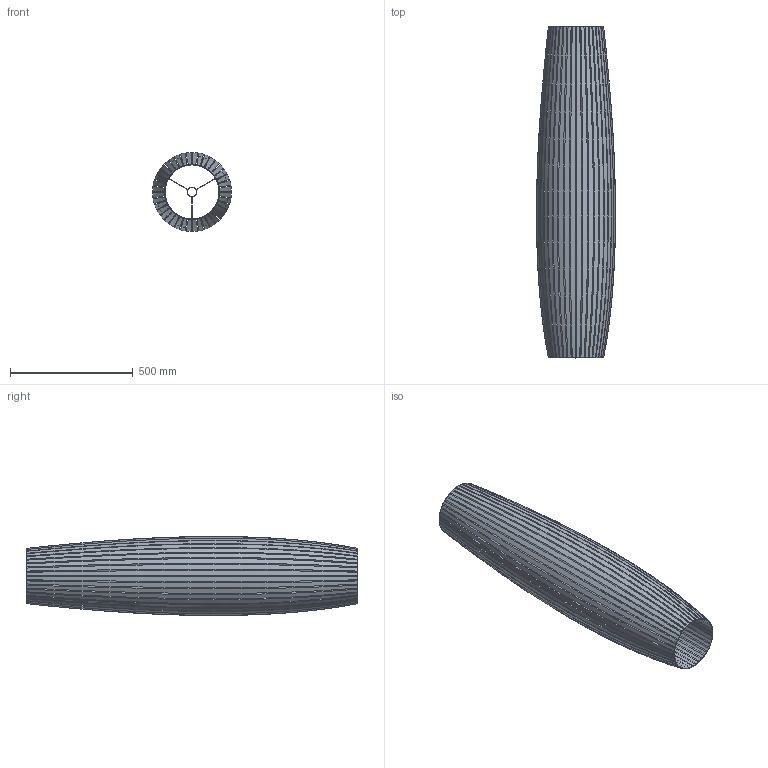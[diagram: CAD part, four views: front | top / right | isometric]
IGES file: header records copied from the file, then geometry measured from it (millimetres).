
Start section: SolidWorks IGES file using analytic representation for surfaces
Global section: file name: C:\Users\danielet\Desktop\3D CARLOS\MIRTA-H3054-3D\MIRTA-H3054-3D.IGS; native system: SolidWorks 2018; preprocessor: SolidWorks 2018; author: danielet; date: 220107.140629; units: millimetre
Bounding box: 321.56 x 1350 x 321.56 mm (x, y, z)
Surface area: 5662351.2 mm2 (no closed solid volume)
Topology: 0 solids, 0 shells, 180 faces, 4329 edges, 4329 vertices
Faces by surface type: bspline 131, revolution 49
